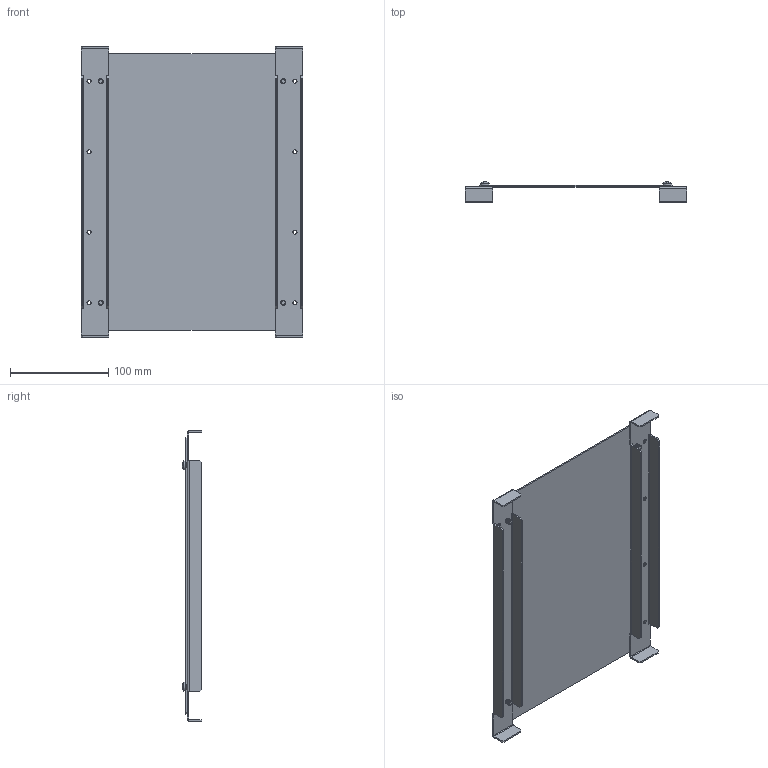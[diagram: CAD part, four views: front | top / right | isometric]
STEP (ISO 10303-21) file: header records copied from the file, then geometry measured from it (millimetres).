
FILE_DESCRIPTION (( 'STEP AP203' ), '1' );
FILE_NAME ('R5FCGD4.STEP', '2019-03-22T06:23:23', ( '' ), ( '' ), 'SwSTEP 2.0', 'SolidWorks 2017', '' );
FILE_SCHEMA (( 'CONFIG_CONTROL_DESIGN' ));
Length unit declared in the file: millimetre
Products named in the file (4): RB.1199.00.00.0_-00 (400); RB.1198.00.00.0_-00 (400); M5x8-DIN7500C_thread; R5FCGD4
Assembly tree (7 placements, depth 2):
  R5FCGD4
    RB.1199.00.00.0_-00 (400)
    RB.1198.00.00.0_-00 (400)  x2
    M5x8-DIN7500C_thread  x4
Bounding box: 226 x 20.06 x 296 mm (x, y, z)
Volume: 128948.9 mm3; surface area: 175867.1 mm2
Topology: 7 solids, 7 shells, 462 faces, 1152 edges, 700 vertices
Faces by surface type: plane 162, cone 144, cylinder 124, torus 16, bspline 8, sphere 8
Entity records: 5860 total; most frequent: CARTESIAN_POINT 1093, DIRECTION 938, ORIENTED_EDGE 864, EDGE_CURVE 432, AXIS2_PLACEMENT_3D 336, VERTEX_POINT 267, VECTOR 266, LINE 266
